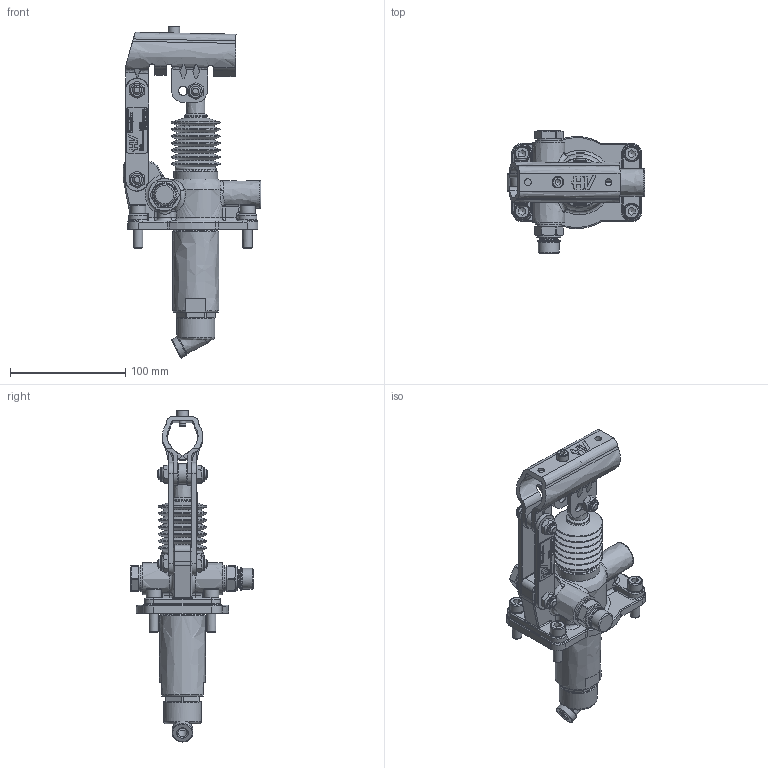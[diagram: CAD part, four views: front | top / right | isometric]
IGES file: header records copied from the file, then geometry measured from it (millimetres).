
Global section: file name: No Iges File Name specified; native system: Autodesk Inventor 2013; preprocessor: AutoDesk Inventor Iges Exporter R2013; author: christian.scardovi; date: 20240228.140620; units: millimetre
Bounding box: 119.5 x 106.5 x 288.31 mm (x, y, z)
Volume: 419346.2 mm3; surface area: 121550.2 mm2
Topology: 3 solids, 3 shells, 1370 faces, 3478 edges, 2203 vertices
Faces by surface type: bspline 1370
